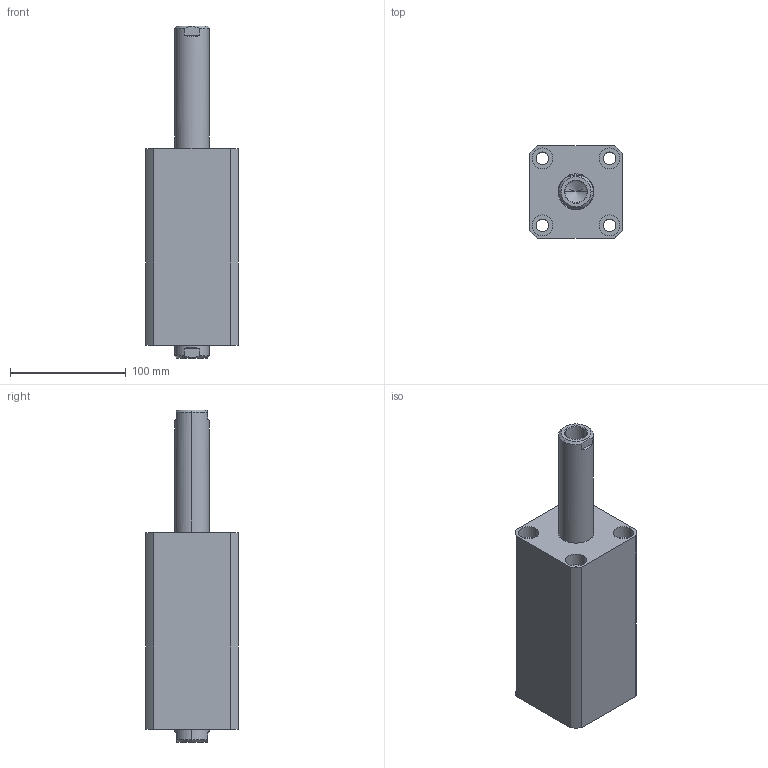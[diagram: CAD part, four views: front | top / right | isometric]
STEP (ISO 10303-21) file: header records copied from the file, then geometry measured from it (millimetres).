
FILE_DESCRIPTION (( 'STEP AP203' ), '1' );
FILE_NAME ('CHTB-SW50-95N.STEP', '2018-05-21T07:47:04', ( '' ), ( '' ), 'SwSTEP 2.0', 'SolidWorks 2015', '' );
FILE_SCHEMA (( 'CONFIG_CONTROL_DESIGN' ));
Length unit declared in the file: millimetre
Products named in the file (4): 掛极SW50-95N; 活塞杆SW50-95N; CHTB-SW50-95N; ヶ裔
Assembly tree (3 placements, depth 2):
  CHTB-SW50-95N
    掛极SW50-95N
    活塞杆SW50-95N
    ヶ裔
Bounding box: 80 x 80 x 287 mm (x, y, z)
Volume: 931270.9 mm3; surface area: 167027.2 mm2
Topology: 3 solids, 3 shells, 225 faces, 528 edges, 331 vertices
Faces by surface type: cylinder 118, plane 46, cone 33, torus 24, bspline 4
Entity records: 9698 total; most frequent: CARTESIAN_POINT 4235, DIRECTION 1104, ORIENTED_EDGE 1040, EDGE_CURVE 520, AXIS2_PLACEMENT_3D 462, VERTEX_POINT 331, EDGE_LOOP 271, CIRCLE 235
